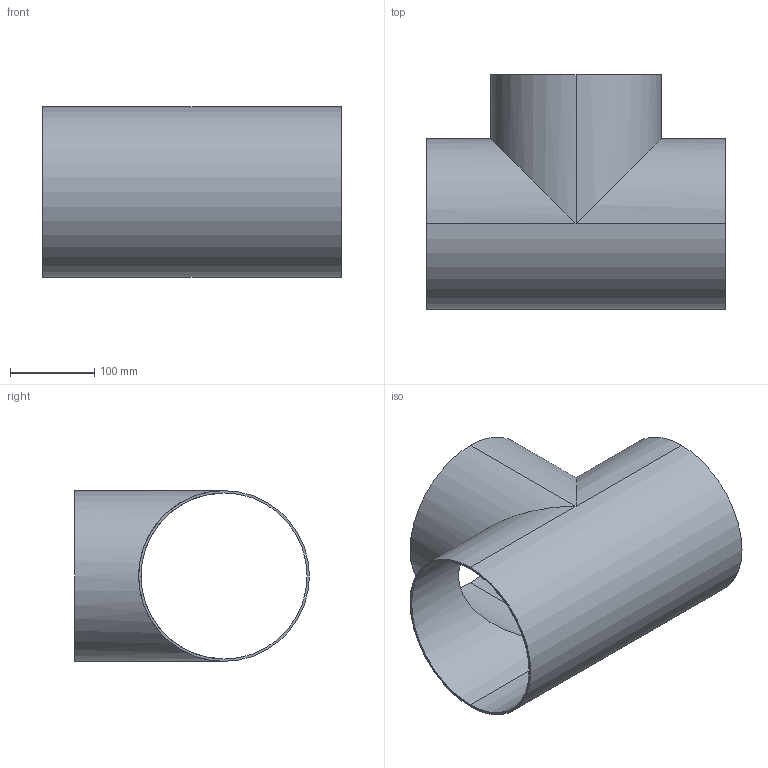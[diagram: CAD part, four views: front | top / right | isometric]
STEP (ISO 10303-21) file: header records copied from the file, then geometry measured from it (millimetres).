
FILE_DESCRIPTION (( 'STEP AP203' ), '1' );
FILE_NAME ('V7W8.0.STEP', '2018-05-11T15:16:20', ( 'vneprd' ), ( 'Microsoft' ), 'SwSTEP 2.0', 'SolidWorks 2014', '' );
FILE_SCHEMA (( 'CONFIG_CONTROL_DESIGN' ));
Length unit declared in the file: inch
Products named in the file (1): V7W8.0
Bounding box: 355.6 x 279.4 x 203.2 mm (x, y, z)
Volume: 707425.5 mm3; surface area: 516244.3 mm2
Topology: 1 solids, 1 shells, 13 faces, 28 edges, 16 vertices
Faces by surface type: cylinder 10, plane 3
Entity records: 437 total; most frequent: CARTESIAN_POINT 70, DIRECTION 64, ORIENTED_EDGE 56, EDGE_CURVE 28, AXIS2_PLACEMENT_3D 26, VERTEX_POINT 16, EDGE_LOOP 16, ADVANCED_FACE 13
